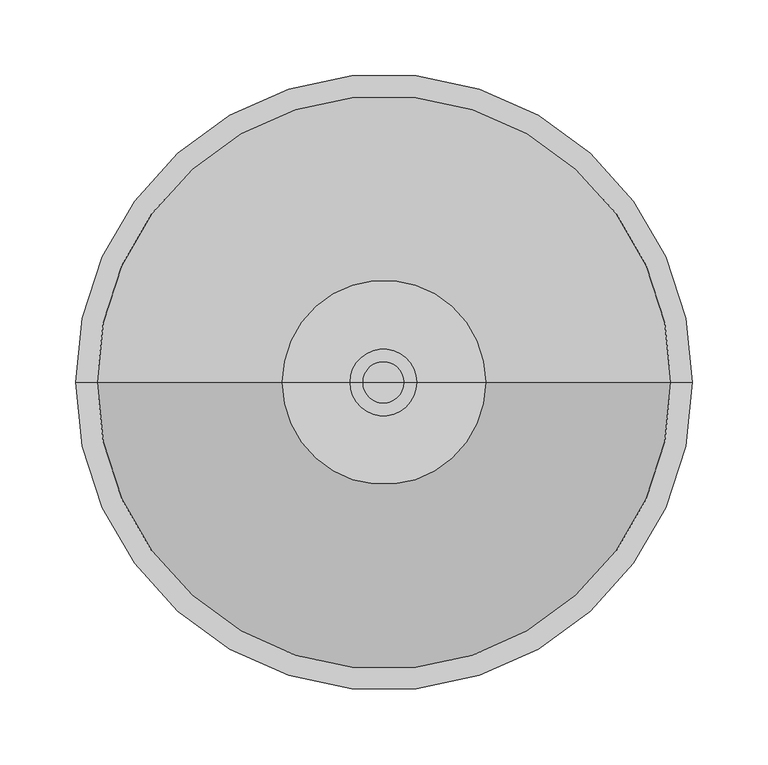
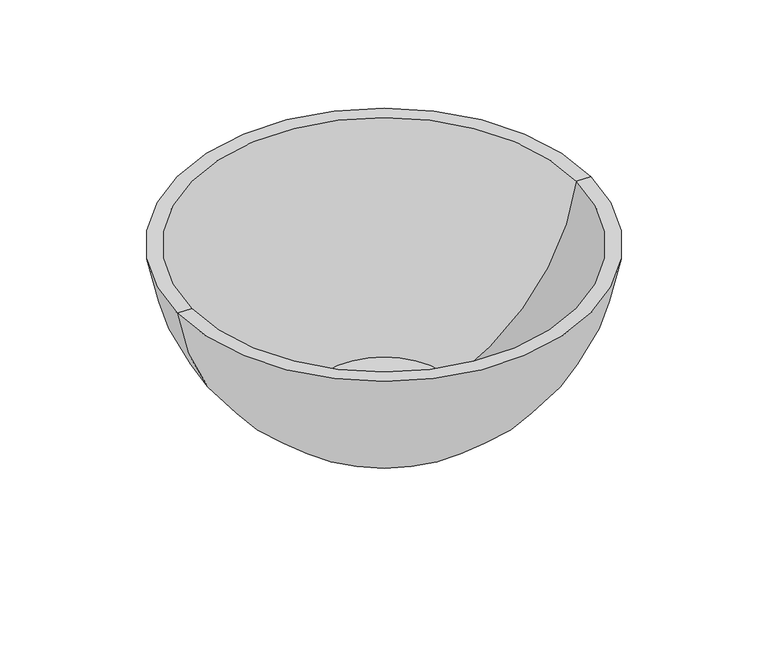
"""IFC4 building model written with IfcOpenShell, lengths in millimetres: flow terminal geometry, Ovalin sobreponer maia - vitromex : Accesorios_baño."""

from ifc_helpers import new_model, si_unit, point, frame, origin, place, context, project, spatial, polyline, circle_curve, ellipse_curve, trimmed, source, transform, mapped, element, save
from ifc_brep_helpers import plane_surface, cylinder_surface, revolved_surface, advanced_brep


def flow_terminal_68213279(model_context):
    return source(origin(), model_context, "Body", "AdvancedBrep", [
        advanced_brep(
        [(13.7379063, 0.0, 765.0), (22.0, 0.0, 765.0), (-22.0, 0.0, 765.0), (-13.7379063, 0.0, 765.0), (13.7379063, 0.0, 753.7247134), (-13.7379063, 0.0, 753.7247134), (0.0, 0.0, 753.7247134), (17.0, 0.0, 750.0), (0.0, 0.0, 750.0), (-17.0, 0.0, 750.0), (17.0, 0.0, 763.464751), (-17.0, 0.0, 763.464751), (22.0, 0.0, 763.464751), (-22.0, 0.0, 763.464751)],
        [
            (0, 1),
            (1, 2, circle_curve(frame((0.0, 0.0, 765.0), z_axis=(0.0, 0.0, 1.0), x_axis=(-1.0, 0.0, 0.0)), 22.0)),
            (2, 3),
            (3, 0, circle_curve(frame((0.0, 0.0, 765.0), z_axis=(0.0, 0.0, -1.0), x_axis=(-1.0, 0.0, 0.0)), 13.7379063)),
            (2, 1, circle_curve(frame((0.0, 0.0, 765.0), z_axis=(0.0, 0.0, 1.0), x_axis=(-1.0, 0.0, 0.0)), 22.0)),
            (0, 3, circle_curve(frame((0.0, 0.0, 765.0), z_axis=(0.0, 0.0, -1.0), x_axis=(-1.0, 0.0, 0.0)), 13.7379063)),
            (4, 0),
            (3, 5),
            (5, 4, circle_curve(frame((0.0, 0.0, 753.7247134), z_axis=(0.0, 0.0, -1.0), x_axis=(-1.0, 0.0, 0.0)), 13.7379063)),
            (4, 5, circle_curve(frame((0.0, 0.0, 753.7247134), z_axis=(0.0, 0.0, -1.0), x_axis=(-1.0, 0.0, 0.0)), 13.7379063)),
            (6, 4),
            (5, 6),
            (7, 8),
            (8, 9),
            (9, 7, circle_curve(frame((0.0, 0.0, 750.0), z_axis=(0.0, 0.0, -1.0), x_axis=(-1.0, 0.0, 0.0)), 17.0)),
            (7, 9, circle_curve(frame((0.0, 0.0, 750.0), z_axis=(0.0, 0.0, -1.0), x_axis=(-1.0, 0.0, 0.0)), 17.0)),
            (10, 7),
            (9, 11),
            (11, 10, circle_curve(frame((0.0, 0.0, 763.464751), z_axis=(0.0, 0.0, -1.0), x_axis=(-1.0, 0.0, 0.0)), 17.0)),
            (10, 11, circle_curve(frame((0.0, 0.0, 763.464751), z_axis=(0.0, 0.0, -1.0), x_axis=(-1.0, 0.0, 0.0)), 17.0)),
            (12, 10),
            (11, 13),
            (13, 12, circle_curve(frame((0.0, 0.0, 763.464751), z_axis=(0.0, 0.0, -1.0), x_axis=(-1.0, 0.0, 0.0)), 22.0)),
            (12, 13, circle_curve(frame((0.0, 0.0, 763.464751), z_axis=(0.0, 0.0, -1.0), x_axis=(-1.0, 0.0, 0.0)), 22.0)),
            (1, 12),
            (13, 2),
        ],
        [
            plane_surface(frame((0.0, 0.0, 765.0), z_axis=(0.0, 0.0, 1.0), x_axis=(-1.0, 0.0, 0.0))),
            revolved_surface(polyline([(-13.7379063, 0.0, 765.0), (-13.7379063, 0.0, 753.7247134)]), (0.0, 0.0, 743.0083255), (0.0, 0.0, 1.0)),
            plane_surface(frame((0.0, 0.0, 753.7247134), z_axis=(0.0, 0.0, 1.0), x_axis=(-1.0, 0.0, 0.0))),
            plane_surface(frame((0.0, 0.0, 750.0), z_axis=(0.0, 0.0, -1.0), x_axis=(-1.0, 0.0, 0.0))),
            cylinder_surface(frame((0.0, 0.0, 743.0083255), z_axis=(0.0, 0.0, 1.0), x_axis=(-1.0, 0.0, 0.0)), 17.0),
            plane_surface(frame((0.0, 0.0, 763.464751), z_axis=(0.0, 0.0, -1.0), x_axis=(-1.0, 0.0, 0.0))),
            cylinder_surface(frame((0.0, 0.0, 743.0083255), z_axis=(0.0, 0.0, 1.0), x_axis=(-1.0, 0.0, 0.0)), 22.0),
        ],
        [
            (0, [[1, 2, 3, 4]]),
            (0, [[-3, 5, -1, 6]]),
            (1, [[7, -4, 8, 9]]),
            (1, [[-8, -6, -7, 10]]),
            (2, [[11, -9, 12]]),
            (2, [[-12, -10, -11]]),
            (3, [[13, 14, 15]]),
            (3, [[-14, -13, 16]]),
            (4, [[17, -15, 18, 19]]),
            (4, [[-18, -16, -17, 20]]),
            (5, [[21, -19, 22, 23]]),
            (5, [[-22, -20, -21, 24]]),
            (6, [[25, -23, 26, -2]]),
            (6, [[-26, -24, -25, -5]]),
        ],
    ),
        advanced_brep(
        [(203.8636466, 0.0320197, 928.0), (70.8636466, 0.0320197, 750.0), (-70.0, 0.0320197, 750.0), (-203.0, 0.0320197, 928.0), (189.7432964, 0.0320197, 928.0), (-188.8796498, 0.0320197, 928.0), (67.8749854, 0.0320197, 764.0), (-67.0113388, 0.0320197, 764.0), (17.4318233, 0.0320197, 764.0), (-16.5681767, 0.0320197, 764.0), (17.4318233, 0.0320197, 750.0), (-16.5681767, 0.0320197, 750.0)],
        [
            (0, 1, circle_curve(frame((-19.8263808, 0.0320197, 956.4509755), z_axis=(0.0, 1.0, 0.0), x_axis=(1.0, 0.0, 0.0)), 225.4920982)),
            (1, 2, circle_curve(frame((0.4318233, 0.0320197, 750.0), z_axis=(0.0, 0.0, 1.0), x_axis=(-1.0, 0.0, 0.0)), 70.4318233)),
            (2, 3, circle_curve(frame((20.6900274, 0.0320197, 956.4509755), z_axis=(0.0, 1.0, 0.0), x_axis=(-1.0, 0.0, 0.0)), 225.4920982)),
            (3, 0, circle_curve(frame((0.4318233, 0.0320197, 928.0), z_axis=(0.0, 0.0, -1.0), x_axis=(-1.0, 0.0, 0.0)), 203.4318233)),
            (2, 1, circle_curve(frame((0.4318233, 0.0320197, 750.0), z_axis=(0.0, 0.0, 1.0), x_axis=(-1.0, 0.0, 0.0)), 70.4318233)),
            (0, 3, circle_curve(frame((0.4318233, 0.0320197, 928.0), z_axis=(0.0, 0.0, -1.0), x_axis=(-1.0, 0.0, 0.0)), 203.4318233)),
            (4, 0),
            (3, 5),
            (5, 4, circle_curve(frame((0.4318233, 0.0320197, 928.0), z_axis=(0.0, 0.0, -1.0), x_axis=(-1.0, 0.0, 0.0)), 189.3114731)),
            (4, 5, circle_curve(frame((0.4318233, 0.0320197, 928.0), z_axis=(0.0, 0.0, -1.0), x_axis=(-1.0, 0.0, 0.0)), 189.3114731)),
            (6, 4, circle_curve(frame((-19.8263808, 0.0320197, 956.4509755), z_axis=(0.0, -1.0, 0.0), x_axis=(1.0, 0.0, 0.0)), 211.4920982)),
            (5, 7, circle_curve(frame((20.6900274, 0.0320197, 956.4509755), z_axis=(0.0, -1.0, 0.0), x_axis=(-1.0, 0.0, 0.0)), 211.4920982)),
            (7, 6, circle_curve(frame((0.4318233, 0.0320197, 764.0), z_axis=(0.0, 0.0, -1.0), x_axis=(-1.0, 0.0, 0.0)), 67.4431621)),
            (6, 7, circle_curve(frame((0.4318233, 0.0320197, 764.0), z_axis=(0.0, 0.0, -1.0), x_axis=(-1.0, 0.0, 0.0)), 67.4431621)),
            (8, 6),
            (7, 9),
            (9, 8, circle_curve(frame((0.4318233, 0.0320197, 764.0), z_axis=(0.0, 0.0, -1.0), x_axis=(-1.0, 0.0, 0.0)), 17.0)),
            (8, 9, circle_curve(frame((0.4318233, 0.0320197, 764.0), z_axis=(0.0, 0.0, -1.0), x_axis=(-1.0, 0.0, 0.0)), 17.0)),
            (10, 8),
            (9, 11),
            (11, 10, circle_curve(frame((0.4318233, 0.0320197, 750.0), z_axis=(0.0, 0.0, -1.0), x_axis=(-1.0, 0.0, 0.0)), 17.0)),
            (10, 11, circle_curve(frame((0.4318233, 0.0320197, 750.0), z_axis=(0.0, 0.0, -1.0), x_axis=(-1.0, 0.0, 0.0)), 17.0)),
            (1, 10),
            (11, 2),
        ],
        [
            revolved_surface(trimmed(ellipse_curve(frame((20.6900274, 0.0320197, 956.4509755), z_axis=(0.0, 1.0, 0.0), x_axis=(-1.0, 0.0, 0.0)), 225.4920982, 225.4920982), [point((-70.0, 0.0320197, 750.0))], [point((-203.0, 0.0320197, 928.0))], True, "CARTESIAN"), (0.4318233, 0.0320197, 700.0), (0.0, 0.0, 1.0)),
            plane_surface(frame((0.4318233, 0.0320197, 928.0), z_axis=(0.0, 0.0, 1.0), x_axis=(-1.0, 0.0, 0.0))),
            revolved_surface(trimmed(ellipse_curve(frame((20.6900274, 0.0320197, 956.4509755), z_axis=(0.0, -1.0, 0.0), x_axis=(-1.0, 0.0, 0.0)), 211.4920982, 211.4920982), [point((-188.8796498, 0.0320197, 928.0))], [point((-67.0113388, 0.0320197, 764.0))], True, "CARTESIAN"), (0.4318233, 0.0320197, 700.0), (0.0, 0.0, 1.0)),
            plane_surface(frame((0.4318233, 0.0320197, 764.0), z_axis=(0.0, 0.0, 1.0), x_axis=(-1.0, 0.0, 0.0))),
            revolved_surface(polyline([(-16.5681767, 0.0320197, 764.0), (-16.5681767, 0.0320197, 750.0)]), (0.4318233, 0.0320197, 700.0), (0.0, 0.0, 1.0)),
            plane_surface(frame((0.4318233, 0.0320197, 750.0), z_axis=(0.0, 0.0, -1.0), x_axis=(-1.0, 0.0, 0.0))),
        ],
        [
            (0, [[1, 2, 3, 4]]),
            (0, [[-3, 5, -1, 6]]),
            (1, [[7, -4, 8, 9]]),
            (1, [[-8, -6, -7, 10]]),
            (2, [[11, -9, 12, 13]]),
            (2, [[-12, -10, -11, 14]]),
            (3, [[15, -13, 16, 17]]),
            (3, [[-16, -14, -15, 18]]),
            (4, [[19, -17, 20, 21]]),
            (4, [[-20, -18, -19, 22]]),
            (5, [[23, -21, 24, -2]]),
            (5, [[-24, -22, -23, -5]]),
        ],
    ),
    ])


if __name__ == "__main__":
    model = new_model("IFC4")
    model_context = context("Model", 3, world=origin())
    ifc_project = project(units=[si_unit("LENGTHUNIT", "METRE", prefix="MILLI")], contexts=[model_context])
    site = spatial("IfcSite", under=ifc_project)
    building = spatial("IfcBuilding", under=site)
    placement = place(None, origin())
    flow_terminal_shape = flow_terminal_68213279(model_context)
    element("IfcFlowTerminal", 1, ObjectType="Ovalin sobreponer maia - vitromex : Accesorios_baño", at=placement, inside=building, context=model_context, shape_type="MappedRepresentation", body=[
        mapped(flow_terminal_shape, transform((0.0, 0.0, 0.0), x_axis=(1.0, 0.0, 0.0), y_axis=(0.0, 1.0, 0.0), z_axis=(0.0, 0.0, 1.0))),
    ])
    save(model, "model.ifc")
